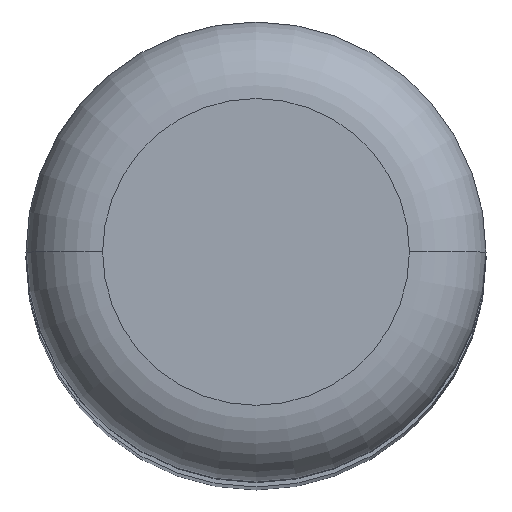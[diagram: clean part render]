
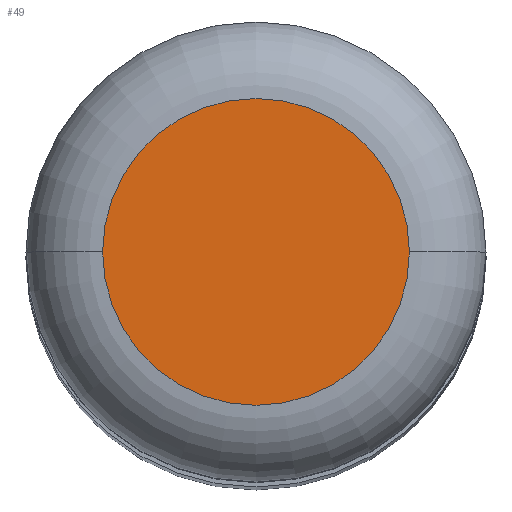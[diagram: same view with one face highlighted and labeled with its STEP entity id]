
A CAD part, top view. The second image highlights one B-rep face of the part: STEP entity #49.
In plain terms, the highlighted planar face has unit normal (0, 0, 1).
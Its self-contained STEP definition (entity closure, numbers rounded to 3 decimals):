
#49=ADVANCED_FACE('',(#98),#99,.T.);
#98=FACE_OUTER_BOUND('',#144,.T.);
#99=PLANE('',#145);
#144=EDGE_LOOP('',(#213,#214));
#145=AXIS2_PLACEMENT_3D('',#215,#216,#217);
#213=ORIENTED_EDGE('',*,*,#275,.T.);
#214=ORIENTED_EDGE('',*,*,#280,.T.);
#215=CARTESIAN_POINT('',(0.0,0.0,120.0));
#216=DIRECTION('',(0.0,0.0,1.0));
#217=DIRECTION('',(1.0,0.0,0.0));
#275=EDGE_CURVE('',#320,#322,#324,.T.);
#280=EDGE_CURVE('',#322,#320,#329,.T.);
#320=VERTEX_POINT('',#375);
#322=VERTEX_POINT('',#377);
#324=CIRCLE('',#379,4.0);
#329=CIRCLE('',#384,4.0);
#375=CARTESIAN_POINT('',(4.0,0.0,120.0));
#377=CARTESIAN_POINT('',(-4.0,0.,120.0));
#379=AXIS2_PLACEMENT_3D('',#426,#427,#428);
#384=AXIS2_PLACEMENT_3D('',#435,#436,#437);
#426=CARTESIAN_POINT('',(0.0,0.0,120.0));
#427=DIRECTION('',(0.0,0.0,1.0));
#428=DIRECTION('',(1.0,0.0,0.0));
#435=CARTESIAN_POINT('',(0.0,0.0,120.0));
#436=DIRECTION('',(0.0,0.0,1.0));
#437=DIRECTION('',(1.0,0.0,0.0));
